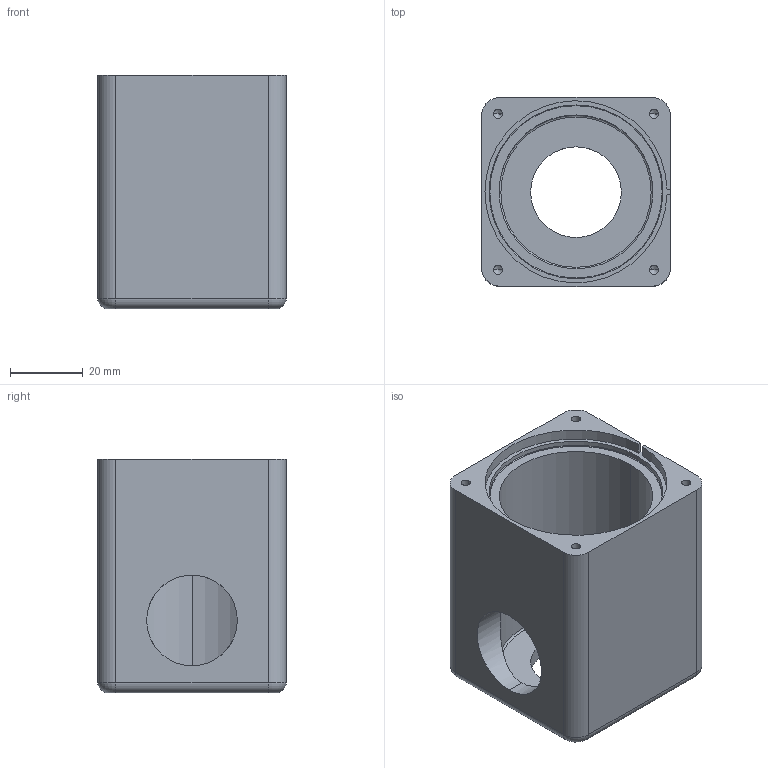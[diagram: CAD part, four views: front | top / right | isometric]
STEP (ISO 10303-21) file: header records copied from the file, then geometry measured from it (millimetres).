
FILE_DESCRIPTION (( 'STEP AP203' ), '1' );
FILE_NAME ('NAC-KF25-·§Ìå.step', '2026-05-10T07:13:06', ( '' ), ( '' ), 'SwSTEP 2.0', 'SolidWorks 2025', '' );
FILE_SCHEMA (( 'CONFIG_CONTROL_DESIGN' ));
Length unit declared in the file: millimetre
Products named in the file (1): NAC-KF25-阀体
Bounding box: 52 x 52 x 64.5 mm (x, y, z)
Volume: 79866.6 mm3; surface area: 25381.6 mm2
Topology: 1 solids, 1 shells, 52 faces, 125 edges, 72 vertices
Faces by surface type: cylinder 25, plane 11, torus 8, cone 8
Entity records: 1640 total; most frequent: CARTESIAN_POINT 344, DIRECTION 281, ORIENTED_EDGE 234, EDGE_CURVE 117, AXIS2_PLACEMENT_3D 113, VERTEX_POINT 72, EDGE_LOOP 61, CIRCLE 60
